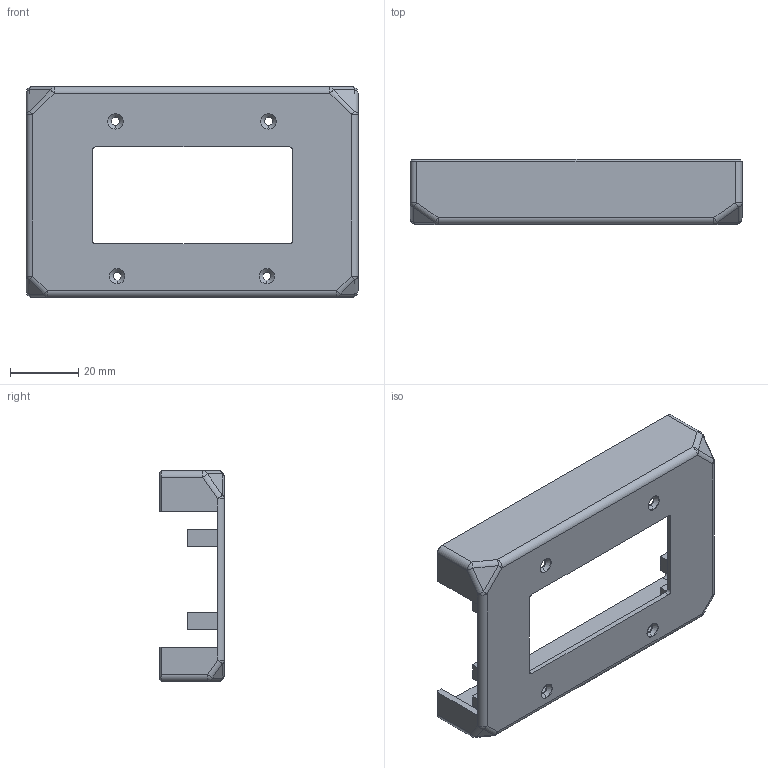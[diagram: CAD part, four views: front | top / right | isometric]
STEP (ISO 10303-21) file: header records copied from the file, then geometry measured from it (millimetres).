
FILE_DESCRIPTION (( 'STEP AP214' ), '1' );
FILE_NAME ('电池盒5-.STEP', '2026-09-29T00:48:12', ( '微软用户' ), ( '微软中国' ), 'SwSTEP 2.0', 'SolidWorks 2016', '' );
FILE_SCHEMA (( 'AUTOMOTIVE_DESIGN' ));
Length unit declared in the file: millimetre
Products named in the file (1): 萇喀碟5-
Bounding box: 97.6 x 19.1 x 62 mm (x, y, z)
Volume: 26264.2 mm3; surface area: 18526.4 mm2
Topology: 1 solids, 1 shells, 210 faces, 522 edges, 300 vertices
Faces by surface type: plane 82, cylinder 72, cone 44, sphere 12
Entity records: 6286 total; most frequent: DIRECTION 1086, CARTESIAN_POINT 1011, ORIENTED_EDGE 1000, EDGE_CURVE 500, AXIS2_PLACEMENT_3D 375, LINE 336, VECTOR 336, VERTEX_POINT 300
